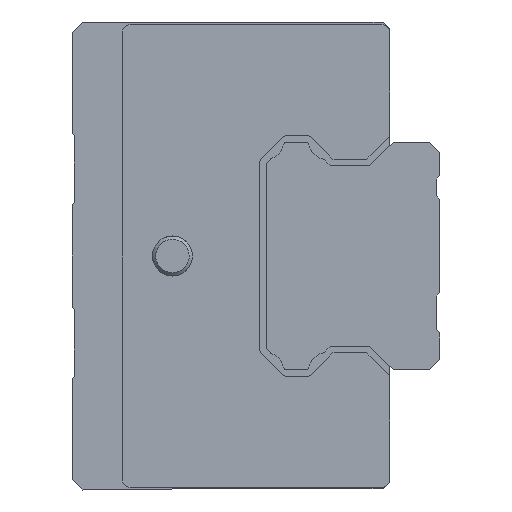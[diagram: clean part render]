
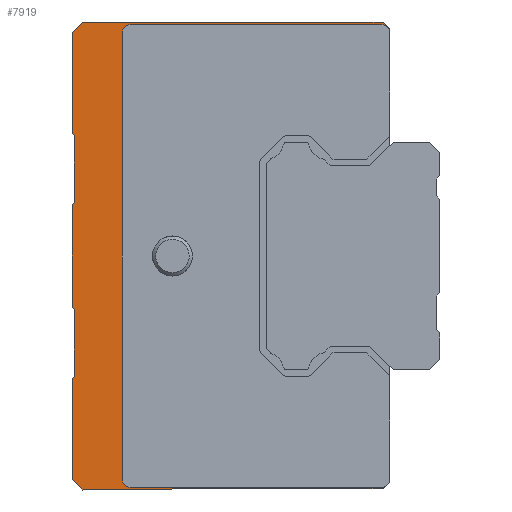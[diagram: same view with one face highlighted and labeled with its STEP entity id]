
A CAD part, left-side view. The second image highlights one B-rep face of the part: STEP entity #7919.
In plain terms, the highlighted planar face has unit normal (-1, 0, 0).
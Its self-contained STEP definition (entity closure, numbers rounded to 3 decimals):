
#2630=CARTESIAN_POINT('',(345.297,-207.984,-69.423));
#2631=VERTEX_POINT('',#2630);
#7204=CARTESIAN_POINT('',(345.297,-161.357,-17.));
#7205=VERTEX_POINT('',#7204);
#7212=CARTESIAN_POINT('',(345.297,-161.057,-16.7));
#7213=VERTEX_POINT('',#7212);
#7214=CARTESIAN_POINT('',(345.297,-161.357,-17.));
#7215=DIRECTION('',(0.0,0.707,0.707));
#7216=VECTOR('',#7215,0.424);
#7217=LINE('',#7214,#7216);
#7218=EDGE_CURVE('',#7205,#7213,#7217,.T.);
#7235=CARTESIAN_POINT('',(345.297,-161.057,-27.3));
#7236=VERTEX_POINT('',#7235);
#7243=CARTESIAN_POINT('',(345.297,-161.357,-27.));
#7244=VERTEX_POINT('',#7243);
#7245=CARTESIAN_POINT('',(345.297,-161.057,-27.3));
#7246=DIRECTION('',(0.0,-0.707,0.707));
#7247=VECTOR('',#7246,0.424);
#7248=LINE('',#7245,#7247);
#7249=EDGE_CURVE('',#7236,#7244,#7248,.T.);
#7266=CARTESIAN_POINT('',(345.297,-161.357,-43.));
#7267=VERTEX_POINT('',#7266);
#7274=CARTESIAN_POINT('',(345.297,-161.057,-42.7));
#7275=VERTEX_POINT('',#7274);
#7276=CARTESIAN_POINT('',(345.297,-161.357,-43.));
#7277=DIRECTION('',(0.0,0.707,0.707));
#7278=VECTOR('',#7277,0.424);
#7279=LINE('',#7276,#7278);
#7280=EDGE_CURVE('',#7267,#7275,#7279,.T.);
#7297=CARTESIAN_POINT('',(345.297,-161.057,-53.3));
#7298=VERTEX_POINT('',#7297);
#7305=CARTESIAN_POINT('',(345.297,-161.357,-53.));
#7306=VERTEX_POINT('',#7305);
#7307=CARTESIAN_POINT('',(345.297,-161.057,-53.3));
#7308=DIRECTION('',(0.0,-0.707,0.707));
#7309=VECTOR('',#7308,0.424);
#7310=LINE('',#7307,#7309);
#7311=EDGE_CURVE('',#7298,#7306,#7310,.T.);
#7328=CARTESIAN_POINT('',(345.297,-176.057,-69.85));
#7329=VERTEX_POINT('',#7328);
#7336=CARTESIAN_POINT('',(345.297,-175.907,-70.));
#7337=VERTEX_POINT('',#7336);
#7338=CARTESIAN_POINT('',(345.297,-176.057,-69.85));
#7339=DIRECTION('',(0.0,0.707,-0.707));
#7340=VECTOR('',#7339,0.212);
#7341=LINE('',#7338,#7340);
#7342=EDGE_CURVE('',#7329,#7337,#7341,.T.);
#7369=CARTESIAN_POINT('',(345.297,-207.557,-69.85));
#7370=VERTEX_POINT('',#7369);
#7371=CARTESIAN_POINT('',(345.297,-207.984,-69.423));
#7372=DIRECTION('',(0.,0.707,-0.707));
#7373=VECTOR('',#7372,0.603);
#7374=LINE('',#7371,#7373);
#7375=EDGE_CURVE('',#2631,#7370,#7374,.T.);
#7540=CARTESIAN_POINT('',(345.297,-161.057,-1.5));
#7541=VERTEX_POINT('',#7540);
#7542=CARTESIAN_POINT('',(345.297,-161.057,-1.5));
#7543=DIRECTION('',(0.0,0.,-1.0));
#7544=VECTOR('',#7543,15.2);
#7545=LINE('',#7542,#7544);
#7546=EDGE_CURVE('',#7541,#7213,#7545,.T.);
#7573=CARTESIAN_POINT('',(345.297,-161.357,-17.));
#7574=DIRECTION('',(0.0,0.,-1.0));
#7575=VECTOR('',#7574,10.);
#7576=LINE('',#7573,#7575);
#7577=EDGE_CURVE('',#7205,#7244,#7576,.T.);
#7589=CARTESIAN_POINT('',(345.297,-161.057,-27.3));
#7590=DIRECTION('',(0.0,0.,-1.0));
#7591=VECTOR('',#7590,15.4);
#7592=LINE('',#7589,#7591);
#7593=EDGE_CURVE('',#7236,#7275,#7592,.T.);
#7607=CARTESIAN_POINT('',(345.297,-161.357,-43.));
#7608=DIRECTION('',(0.0,0.,-1.0));
#7609=VECTOR('',#7608,10.);
#7610=LINE('',#7607,#7609);
#7611=EDGE_CURVE('',#7267,#7306,#7610,.T.);
#7622=CARTESIAN_POINT('',(345.297,-161.057,-68.5));
#7623=VERTEX_POINT('',#7622);
#7630=CARTESIAN_POINT('',(345.297,-161.057,-53.3));
#7631=DIRECTION('',(0.0,0.,-1.0));
#7632=VECTOR('',#7631,15.2);
#7633=LINE('',#7630,#7632);
#7634=EDGE_CURVE('',#7298,#7623,#7633,.T.);
#7654=CARTESIAN_POINT('',(345.297,-162.557,-70.));
#7655=VERTEX_POINT('',#7654);
#7662=CARTESIAN_POINT('',(345.297,-161.057,-68.5));
#7663=DIRECTION('',(0.0,-0.707,-0.707));
#7664=VECTOR('',#7663,2.121);
#7665=LINE('',#7662,#7664);
#7666=EDGE_CURVE('',#7623,#7655,#7665,.T.);
#7679=CARTESIAN_POINT('',(345.297,-162.557,-70.));
#7680=DIRECTION('',(0.0,-1.0,0.));
#7681=VECTOR('',#7680,13.35);
#7682=LINE('',#7679,#7681);
#7683=EDGE_CURVE('',#7655,#7337,#7682,.T.);
#7697=CARTESIAN_POINT('',(345.297,-176.057,-69.85));
#7698=DIRECTION('',(0.0,-1.0,0.));
#7699=VECTOR('',#7698,31.5);
#7700=LINE('',#7697,#7699);
#7701=EDGE_CURVE('',#7329,#7370,#7700,.T.);
#7776=CARTESIAN_POINT('',(345.297,-162.557,0.));
#7777=VERTEX_POINT('',#7776);
#7778=CARTESIAN_POINT('',(345.297,-162.557,0.));
#7779=DIRECTION('',(0.0,0.707,-0.707));
#7780=VECTOR('',#7779,2.121);
#7781=LINE('',#7778,#7780);
#7782=EDGE_CURVE('',#7777,#7541,#7781,.T.);
#7799=CARTESIAN_POINT('',(345.297,-207.557,0.));
#7800=VERTEX_POINT('',#7799);
#7807=CARTESIAN_POINT('',(345.297,-208.557,-1.));
#7808=VERTEX_POINT('',#7807);
#7809=CARTESIAN_POINT('',(345.297,-208.557,-1.));
#7810=DIRECTION('',(0.0,0.707,0.707));
#7811=VECTOR('',#7810,1.414);
#7812=LINE('',#7809,#7811);
#7813=EDGE_CURVE('',#7808,#7800,#7812,.T.);
#7824=CARTESIAN_POINT('',(345.297,-257.942,-35.));
#7825=DIRECTION('',(-1.0,0.0,0.0));
#7826=DIRECTION('',(0.0,0.,1.0));
#7827=AXIS2_PLACEMENT_3D('',#7824,#7825,#7826);
#7828=PLANE('',#7827);
#7829=CARTESIAN_POINT('',(345.297,-207.357,-0.4));
#7830=VERTEX_POINT('',#7829);
#7831=CARTESIAN_POINT('',(345.297,-208.557,-1.6));
#7832=VERTEX_POINT('',#7831);
#7833=CARTESIAN_POINT('',(345.297,-207.357,-1.6));
#7834=DIRECTION('',(1.0,0.0,0.0));
#7835=DIRECTION('',(0.0,0.0,-1.0));
#7836=AXIS2_PLACEMENT_3D('',#7833,#7834,#7835);
#7837=CIRCLE('',#7836,1.2);
#7838=EDGE_CURVE('',#7830,#7832,#7837,.T.);
#7839=ORIENTED_EDGE('',*,*,#7838,.T.);
#7840=CARTESIAN_POINT('',(345.297,-208.557,-1.6));
#7841=DIRECTION('',(0.,0.,1.0));
#7842=VECTOR('',#7841,0.6);
#7843=LINE('',#7840,#7842);
#7844=EDGE_CURVE('',#7832,#7808,#7843,.T.);
#7845=ORIENTED_EDGE('',*,*,#7844,.T.);
#7846=ORIENTED_EDGE('',*,*,#7813,.T.);
#7847=CARTESIAN_POINT('',(345.297,-207.557,0.));
#7848=DIRECTION('',(0.0,1.0,0.));
#7849=VECTOR('',#7848,45.);
#7850=LINE('',#7847,#7849);
#7851=EDGE_CURVE('',#7800,#7777,#7850,.T.);
#7852=ORIENTED_EDGE('',*,*,#7851,.T.);
#7853=ORIENTED_EDGE('',*,*,#7782,.T.);
#7854=ORIENTED_EDGE('',*,*,#7546,.T.);
#7855=ORIENTED_EDGE('',*,*,#7218,.F.);
#7856=ORIENTED_EDGE('',*,*,#7577,.T.);
#7857=ORIENTED_EDGE('',*,*,#7249,.F.);
#7858=ORIENTED_EDGE('',*,*,#7593,.T.);
#7859=ORIENTED_EDGE('',*,*,#7280,.F.);
#7860=ORIENTED_EDGE('',*,*,#7611,.T.);
#7861=ORIENTED_EDGE('',*,*,#7311,.F.);
#7862=ORIENTED_EDGE('',*,*,#7634,.T.);
#7863=ORIENTED_EDGE('',*,*,#7666,.T.);
#7864=ORIENTED_EDGE('',*,*,#7683,.T.);
#7865=ORIENTED_EDGE('',*,*,#7342,.F.);
#7866=ORIENTED_EDGE('',*,*,#7701,.T.);
#7867=ORIENTED_EDGE('',*,*,#7375,.F.);
#7868=CARTESIAN_POINT('',(345.297,-207.357,-69.6));
#7869=VERTEX_POINT('',#7868);
#7870=CARTESIAN_POINT('',(345.297,-207.357,-68.4));
#7871=DIRECTION('',(1.0,0.0,0.0));
#7872=DIRECTION('',(0.0,0.0,-1.0));
#7873=AXIS2_PLACEMENT_3D('',#7870,#7871,#7872);
#7874=CIRCLE('',#7873,1.2);
#7875=EDGE_CURVE('',#2631,#7869,#7874,.T.);
#7876=ORIENTED_EDGE('',*,*,#7875,.T.);
#7877=CARTESIAN_POINT('',(345.297,-169.757,-69.6));
#7878=VERTEX_POINT('',#7877);
#7879=CARTESIAN_POINT('',(345.297,-207.357,-69.6));
#7880=DIRECTION('',(0.0,1.0,0.0));
#7881=VECTOR('',#7880,37.6);
#7882=LINE('',#7879,#7881);
#7883=EDGE_CURVE('',#7869,#7878,#7882,.T.);
#7884=ORIENTED_EDGE('',*,*,#7883,.T.);
#7885=CARTESIAN_POINT('',(345.297,-168.557,-68.4));
#7886=VERTEX_POINT('',#7885);
#7887=CARTESIAN_POINT('',(345.297,-169.757,-68.4));
#7888=DIRECTION('',(1.0,0.0,0.0));
#7889=DIRECTION('',(0.0,0.0,-1.0));
#7890=AXIS2_PLACEMENT_3D('',#7887,#7888,#7889);
#7891=CIRCLE('',#7890,1.2);
#7892=EDGE_CURVE('',#7878,#7886,#7891,.T.);
#7893=ORIENTED_EDGE('',*,*,#7892,.T.);
#7894=CARTESIAN_POINT('',(345.297,-168.557,-1.6));
#7895=VERTEX_POINT('',#7894);
#7896=CARTESIAN_POINT('',(345.297,-168.557,-68.4));
#7897=DIRECTION('',(0.0,0.0,1.0));
#7898=VECTOR('',#7897,66.8);
#7899=LINE('',#7896,#7898);
#7900=EDGE_CURVE('',#7886,#7895,#7899,.T.);
#7901=ORIENTED_EDGE('',*,*,#7900,.T.);
#7902=CARTESIAN_POINT('',(345.297,-169.757,-0.4));
#7903=VERTEX_POINT('',#7902);
#7904=CARTESIAN_POINT('',(345.297,-169.757,-1.6));
#7905=DIRECTION('',(1.0,0.0,0.0));
#7906=DIRECTION('',(0.0,0.0,-1.0));
#7907=AXIS2_PLACEMENT_3D('',#7904,#7905,#7906);
#7908=CIRCLE('',#7907,1.2);
#7909=EDGE_CURVE('',#7895,#7903,#7908,.T.);
#7910=ORIENTED_EDGE('',*,*,#7909,.T.);
#7911=CARTESIAN_POINT('',(345.297,-169.757,-0.4));
#7912=DIRECTION('',(0.0,-1.0,0.0));
#7913=VECTOR('',#7912,37.6);
#7914=LINE('',#7911,#7913);
#7915=EDGE_CURVE('',#7903,#7830,#7914,.T.);
#7916=ORIENTED_EDGE('',*,*,#7915,.T.);
#7917=EDGE_LOOP('',(#7839,#7845,#7846,#7852,#7853,#7854,#7855,#7856,#7857,#7858,#7859,#7860,#7861,#7862,#7863,#7864,#7865,#7866,#7867,#7876,#7884,#7893,#7901,#7910,#7916));
#7918=FACE_OUTER_BOUND('',#7917,.T.);
#7919=ADVANCED_FACE('',(#7918),#7828,.T.);
